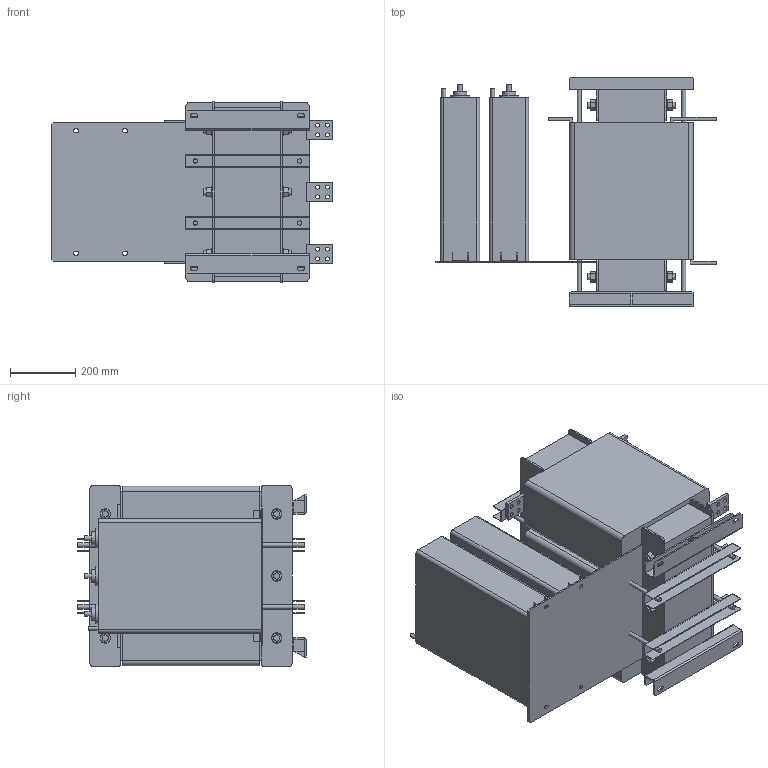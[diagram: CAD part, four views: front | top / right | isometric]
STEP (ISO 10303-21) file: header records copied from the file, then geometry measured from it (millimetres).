
FILE_DESCRIPTION(/* description */ (''),/* implementation_level */ '2;1');
FILE_NAME(/* name */ 'Sin-T6-1200.stp',/* time_stamp */ '2025-02-25T11:07:16+04:00',/* author */ ('Лео'),/* organization */ (''),/* preprocessor_version */ 'ST-DEVELOPER v19.2',/* originating_system */ 'Autodesk Inventor 2024',/* authorisation */ '');
FILE_SCHEMA (('AUTOMOTIVE_DESIGN { 1 0 10303 214 3 1 1 }'));
Length unit declared in the file: millimetre
Products named in the file (1): Sin-T6-1200 испр
Bounding box: 860 x 700 x 555 mm (x, y, z)
Volume: 148458632 mm3; surface area: 4908639.8 mm2
Topology: 26 solids, 26 shells, 665 faces, 1532 edges, 964 vertices
Faces by surface type: plane 501, cylinder 164
Full cylindrical faces by diameter (mm): 12 x38, 13 x12, 15 x6, 19 x12, 32.562 x12, 40 x6, 60 x6
Entity records: 18780 total; most frequent: DIRECTION 3264, CARTESIAN_POINT 3162, ORIENTED_EDGE 3064, EDGE_CURVE 1532, LINE 1132, VECTOR 1132, AXIS2_PLACEMENT_3D 1066, VERTEX_POINT 964
